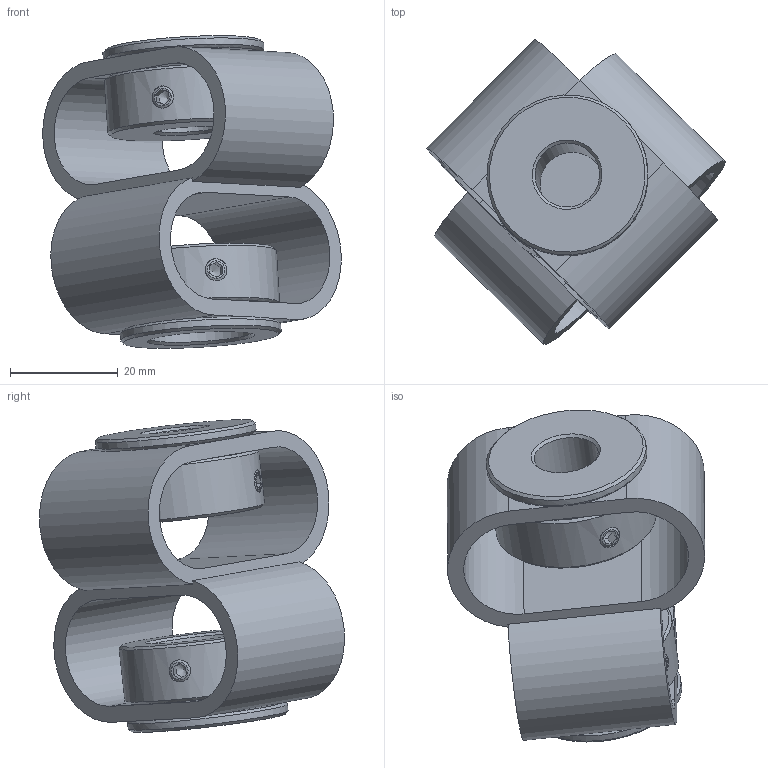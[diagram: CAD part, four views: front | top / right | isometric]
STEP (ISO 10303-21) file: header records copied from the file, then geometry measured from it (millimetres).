
FILE_DESCRIPTION(/* description */ (''),/* implementation_level */ '2;1');
FILE_NAME(/* name */ 'E:\ABP_bauteile\Doppelschlaufenkupplung\DKPS_5658\Doppelschlaufenkupplung_DKPS_5658_12_19.stp',/* time_stamp */ '2015-03-13T11:36:10+01:00',/* author */ ('Rob'),/* organization */ (''),/* preprocessor_version */ 'ST-DEVELOPER v15.6',/* originating_system */ 'Autodesk Inventor 2015',/* authorisation */ '');
FILE_SCHEMA (('CONFIG_CONTROL_DESIGN'));
Length unit declared in the file: millimetre
Products named in the file (1): Bauteil46
Bounding box: 55.53 x 56.74 x 58.16 mm (x, y, z)
Volume: 30259.1 mm3; surface area: 18059.4 mm2
Topology: 1 solids, 1 shells, 142 faces, 360 edges, 218 vertices
Faces by surface type: plane 84, cone 30, cylinder 28
Full cylindrical faces by diameter (mm): 4.134 x8, 12 x1, 19 x1, 21.5 x2, 23 x4, 30 x4
Entity records: 4088 total; most frequent: CARTESIAN_POINT 1027, DIRECTION 646, ORIENTED_EDGE 556, EDGE_CURVE 278, AXIS2_PLACEMENT_3D 257, EDGE_LOOP 210, VERTEX_POINT 182, FACE_OUTER_BOUND 142
